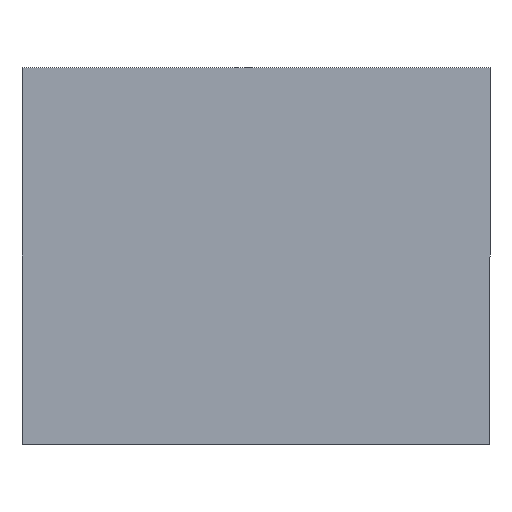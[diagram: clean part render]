
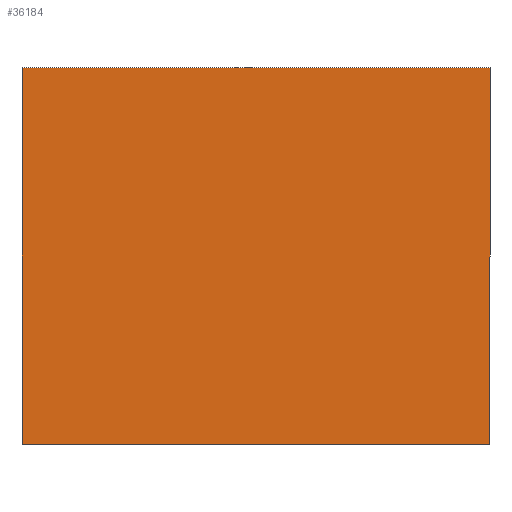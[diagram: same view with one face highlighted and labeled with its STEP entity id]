
A CAD part, front view. The second image highlights one B-rep face of the part: STEP entity #36184.
In plain terms, the highlighted planar face has unit normal (0, -1, 0).
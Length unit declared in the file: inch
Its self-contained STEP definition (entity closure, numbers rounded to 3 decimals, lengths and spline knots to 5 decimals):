
#8 = DIRECTION ( 'NONE',  ( -1., 0., 0. ) ) ;
#9 = CARTESIAN_POINT ( 'NONE',  ( 11.27959, -4.47983, -6.81135 ) ) ;
#11 = LINE ( 'NONE', #9, #811 ) ;
#14 = DIRECTION ( 'NONE',  ( 0., 0., 1. ) ) ;
#19 = LINE ( 'NONE', #24, #815 ) ;
#24 = CARTESIAN_POINT ( 'NONE',  ( -8.32135, -4.47983, 0.75824 ) ) ;
#181 = AXIS2_PLACEMENT_3D ( 'NONE', #29669, #29676, #29677 ) ;
#807 = VECTOR ( 'NONE', #6242, 39.37008 ) ;
#810 = VECTOR ( 'NONE', #6237, 39.37008 ) ;
#811 = VECTOR ( 'NONE', #8, 39.37008 ) ;
#815 = VECTOR ( 'NONE', #14, 39.37008 ) ;
#1848 = EDGE_CURVE ( 'NONE', #4391, #4377, #19, .T. ) ;
#1850 = EDGE_CURVE ( 'NONE', #4465, #4391, #11, .T. ) ;
#1853 = EDGE_CURVE ( 'NONE', #4392, #4465, #6235, .T. ) ;
#1855 = EDGE_CURVE ( 'NONE', #4377, #4392, #6240, .T. ) ;
#4377 = VERTEX_POINT ( 'NONE', #33366 ) ;
#4391 = VERTEX_POINT ( 'NONE', #33377 ) ;
#4392 = VERTEX_POINT ( 'NONE', #33378 ) ;
#4465 = VERTEX_POINT ( 'NONE', #33429 ) ;
#4542 = ORIENTED_EDGE ( 'NONE', *, *, #1853, .F. ) ;
#4682 = ORIENTED_EDGE ( 'NONE', *, *, #1855, .F. ) ;
#6235 = LINE ( 'NONE', #6236, #810 ) ;
#6236 = CARTESIAN_POINT ( 'NONE',  ( 8.32135, -4.47983, 0.75824 ) ) ;
#6237 = DIRECTION ( 'NONE',  ( 0., 0., -1. ) ) ;
#6240 = LINE ( 'NONE', #6241, #807 ) ;
#6241 = CARTESIAN_POINT ( 'NONE',  ( 11.27959, -4.47983, 6.5676 ) ) ;
#6242 = DIRECTION ( 'NONE',  ( 1., 0., 0. ) ) ;
#29669 = CARTESIAN_POINT ( 'NONE',  ( 11.27959, -4.47983, 0.75824 ) ) ;
#29672 = FACE_OUTER_BOUND ( 'NONE', #37169, .T. ) ;
#29673 = PLANE ( 'NONE',  #181 ) ;
#29676 = DIRECTION ( 'NONE',  ( 0., 1., 0. ) ) ;
#29677 = DIRECTION ( 'NONE',  ( 0., 0., 1. ) ) ;
#30967 = ORIENTED_EDGE ( 'NONE', *, *, #1850, .F. ) ;
#30980 = ORIENTED_EDGE ( 'NONE', *, *, #1848, .F. ) ;
#33366 = CARTESIAN_POINT ( 'NONE',  ( -8.32135, -4.47983, 6.5676 ) ) ;
#33377 = CARTESIAN_POINT ( 'NONE',  ( -8.32135, -4.47983, -6.81135 ) ) ;
#33378 = CARTESIAN_POINT ( 'NONE',  ( 8.32135, -4.47983, 6.5676 ) ) ;
#33429 = CARTESIAN_POINT ( 'NONE',  ( 8.32135, -4.47983, -6.81135 ) ) ;
#36184 = ADVANCED_FACE ( 'NONE', ( #29672 ), #29673, .F. ) ;
#37169 = EDGE_LOOP ( 'NONE', ( #30967, #4542, #4682, #30980 ) ) ;
